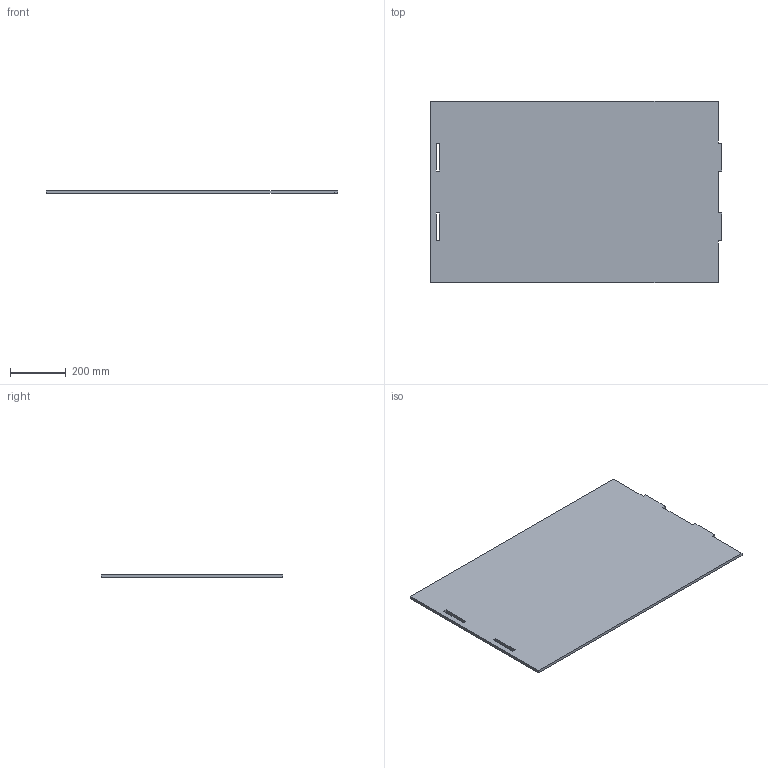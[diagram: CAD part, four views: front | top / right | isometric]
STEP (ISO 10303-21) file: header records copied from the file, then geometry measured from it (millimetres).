
FILE_DESCRIPTION (( 'STEP AP214' ), '1' );
FILE_NAME ('Top.STEP', '2024-10-17T16:07:06', ( '' ), ( '' ), 'SwSTEP 2.0', 'SolidWorks 2020', '' );
FILE_SCHEMA (( 'AUTOMOTIVE_DESIGN' ));
Length unit declared in the file: millimetre
Products named in the file (1): Top
Bounding box: 1040 x 650 x 10 mm (x, y, z)
Volume: 6682000 mm3; surface area: 1374920 mm2
Topology: 1 solids, 1 shells, 22 faces, 60 edges, 40 vertices
Faces by surface type: plane 22
Entity records: 726 total; most frequent: CARTESIAN_POINT 123, ORIENTED_EDGE 120, DIRECTION 106, VECTOR 60, EDGE_CURVE 60, LINE 60, VERTEX_POINT 40, EDGE_LOOP 26
